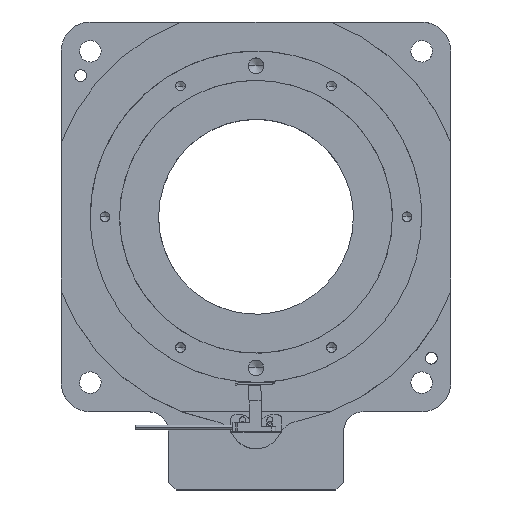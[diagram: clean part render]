
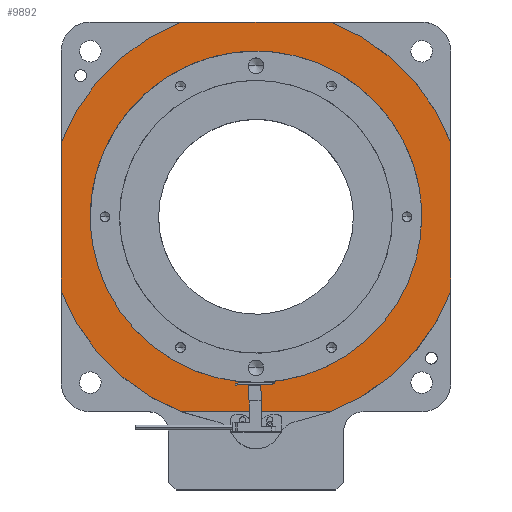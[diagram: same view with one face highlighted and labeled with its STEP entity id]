
A CAD part, top view. The second image highlights one B-rep face of the part: STEP entity #9892.
In plain terms, the highlighted planar face has unit normal (0, 0, 1).
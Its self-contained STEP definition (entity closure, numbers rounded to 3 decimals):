
#195 = CARTESIAN_POINT ( 'NONE',  ( -71.786, -8.598, 40.6 ) ) ;
#304 =( BOUNDED_CURVE ( )  B_SPLINE_CURVE ( 2, ( #7040, #15871, #25415 ),
 .UNSPECIFIED., .F., .T. ) 
 B_SPLINE_CURVE_WITH_KNOTS ( ( 3, 3 ),
 ( -90.239, 0. ),
 .UNSPECIFIED. ) 
 CURVE ( )  GEOMETRIC_REPRESENTATION_ITEM ( )  RATIONAL_B_SPLINE_CURVE ( ( 1., 0.912, 1. ) ) 
 REPRESENTATION_ITEM ( '' )  );
#588 = CARTESIAN_POINT ( 'NONE',  ( 96.138, -91.523, 40.6 ) ) ;
#884 = CARTESIAN_POINT ( 'NONE',  ( -86.786, 29.467, 40.6 ) ) ;
#1597 = CARTESIAN_POINT ( 'NONE',  ( -71.786, -93.598, 40.6 ) ) ;
#1882 = EDGE_CURVE ( 'NONE', #11064, #12660, #26430, .T. ) ;
#1992 = CARTESIAN_POINT ( 'NONE',  ( 96.138, 74.326, 40.6 ) ) ;
#2398 = ORIENTED_EDGE ( 'NONE', *, *, #24007, .T. ) ;
#3068 = CARTESIAN_POINT ( 'NONE',  ( 113.214, -46.664, 40.6 ) ) ;
#3305 = AXIS2_PLACEMENT_3D ( 'NONE', #18288, #24613, #13273 ) ;
#3606 = VERTEX_POINT ( 'NONE', #6590 ) ;
#4144 = CARTESIAN_POINT ( 'NONE',  ( -24.852, 91.402, 40.6 ) ) ;
#4430 = CARTESIAN_POINT ( 'NONE',  ( 51.28, 91.402, 40.6 ) ) ;
#5561 = EDGE_CURVE ( 'NONE', #12660, #15697, #28171, .T. ) ;
#6590 = CARTESIAN_POINT ( 'NONE',  ( -24.852, -108.598, 40.6 ) ) ;
#6942 = B_SPLINE_CURVE_WITH_KNOTS ( 'NONE', 1,
 ( #7073, #18552 ),
 .UNSPECIFIED., .F., .F.,
 ( 2, 2 ),
 ( 0., 76.131 ),
 .UNSPECIFIED. ) ;
#6950 = ORIENTED_EDGE ( 'NONE', *, *, #10341, .T. ) ;
#7040 = CARTESIAN_POINT ( 'NONE',  ( -24.852, 91.402, 40.6 ) ) ;
#7073 = CARTESIAN_POINT ( 'NONE',  ( -24.852, -108.598, 40.6 ) ) ;
#7283 =( BOUNDED_CURVE ( )  B_SPLINE_CURVE ( 2, ( #12900, #21924, #8401, #1597, #26451 ),
 .UNSPECIFIED., .F., .T. ) 
 B_SPLINE_CURVE_WITH_KNOTS ( ( 3, 2, 3 ),
 ( -267.035, -133.518, 0. ),
 .UNSPECIFIED. ) 
 CURVE ( )  GEOMETRIC_REPRESENTATION_ITEM ( )  RATIONAL_B_SPLINE_CURVE ( ( 1., 0.707, 1., 0.707, 1. ) ) 
 REPRESENTATION_ITEM ( '' )  );
#7737 = EDGE_LOOP ( 'NONE', ( #25149, #27097 ) ) ;
#8401 = CARTESIAN_POINT ( 'NONE',  ( 13.214, -93.598, 40.6 ) ) ;
#8758 = FACE_BOUND ( 'NONE', #7737, .T. ) ;
#8780 = CARTESIAN_POINT ( 'NONE',  ( 51.28, 91.402, 40.6 ) ) ;
#8902 = VERTEX_POINT ( 'NONE', #13117 ) ;
#9121 = CARTESIAN_POINT ( 'NONE',  ( -69.71, -91.523, 40.6 ) ) ;
#9523 = CARTESIAN_POINT ( 'NONE',  ( 51.28, 91.402, 40.6 ) ) ;
#9839 = B_SPLINE_CURVE_WITH_KNOTS ( 'NONE', 1,
 ( #884, #20767 ),
 .UNSPECIFIED., .F., .F.,
 ( 2, 2 ),
 ( -76.131, 0. ),
 .UNSPECIFIED. ) ;
#9892 = ADVANCED_FACE ( 'NONE', ( #8758, #17712 ), #20506, .T. ) ;
#10341 = EDGE_CURVE ( 'NONE', #3606, #22522, #6942, .T. ) ;
#10930 = CARTESIAN_POINT ( 'NONE',  ( 98.214, 76.402, 40.6 ) ) ;
#11064 = VERTEX_POINT ( 'NONE', #28860 ) ;
#11212 = CARTESIAN_POINT ( 'NONE',  ( 98.214, -8.598, 40.6 ) ) ;
#11699 = VERTEX_POINT ( 'NONE', #17953 ) ;
#11718 =( BOUNDED_CURVE ( )  B_SPLINE_CURVE ( 2, ( #11212, #10930, #18008, #22162, #195 ),
 .UNSPECIFIED., .F., .F. ) 
 B_SPLINE_CURVE_WITH_KNOTS ( ( 3, 2, 3 ),
 ( 0., 133.518, 267.035 ),
 .UNSPECIFIED. ) 
 CURVE ( )  GEOMETRIC_REPRESENTATION_ITEM ( )  RATIONAL_B_SPLINE_CURVE ( ( 1., 0.707, 1., 0.707, 1. ) ) 
 REPRESENTATION_ITEM ( '' )  );
#11850 = CARTESIAN_POINT ( 'NONE',  ( -86.786, -46.664, 40.6 ) ) ;
#11883 = ORIENTED_EDGE ( 'NONE', *, *, #18917, .T. ) ;
#12660 = VERTEX_POINT ( 'NONE', #28444 ) ;
#12900 = CARTESIAN_POINT ( 'NONE',  ( 98.214, -8.598, 40.6 ) ) ;
#13117 = CARTESIAN_POINT ( 'NONE',  ( -86.786, -46.664, 40.6 ) ) ;
#13273 = DIRECTION ( 'NONE',  ( 1., 0., 0. ) ) ;
#13963 = CARTESIAN_POINT ( 'NONE',  ( 51.28, -108.598, 40.6 ) ) ;
#14970 = EDGE_CURVE ( 'NONE', #18897, #19267, #11718, .T. ) ;
#15078 = CARTESIAN_POINT ( 'NONE',  ( -86.786, 29.467, 40.6 ) ) ;
#15133 = CARTESIAN_POINT ( 'NONE',  ( 98.214, -8.598, 40.6 ) ) ;
#15643 = CARTESIAN_POINT ( 'NONE',  ( 51.28, -108.598, 40.6 ) ) ;
#15697 = VERTEX_POINT ( 'NONE', #9523 ) ;
#15871 = CARTESIAN_POINT ( 'NONE',  ( -69.71, 74.326, 40.6 ) ) ;
#16666 = CARTESIAN_POINT ( 'NONE',  ( 113.214, -46.664, 40.6 ) ) ;
#17712 = FACE_OUTER_BOUND ( 'NONE', #25644, .T. ) ;
#17953 = CARTESIAN_POINT ( 'NONE',  ( -24.852, 91.402, 40.6 ) ) ;
#18008 = CARTESIAN_POINT ( 'NONE',  ( 13.214, 76.402, 40.6 ) ) ;
#18059 = ORIENTED_EDGE ( 'NONE', *, *, #1882, .T. ) ;
#18089 = EDGE_CURVE ( 'NONE', #18897, #19267, #7283, .T. ) ;
#18149 = ORIENTED_EDGE ( 'NONE', *, *, #5561, .T. ) ;
#18288 = CARTESIAN_POINT ( 'NONE',  ( -106.786, -128.598, 40.6 ) ) ;
#18552 = CARTESIAN_POINT ( 'NONE',  ( 51.28, -108.598, 40.6 ) ) ;
#18598 = CARTESIAN_POINT ( 'NONE',  ( 113.214, 29.467, 40.6 ) ) ;
#18673 = EDGE_CURVE ( 'NONE', #15697, #11699, #26325, .T. ) ;
#18897 = VERTEX_POINT ( 'NONE', #15133 ) ;
#18917 = EDGE_CURVE ( 'NONE', #8902, #3606, #22518, .T. ) ;
#18957 = EDGE_CURVE ( 'NONE', #11699, #28617, #304, .T. ) ;
#19267 = VERTEX_POINT ( 'NONE', #19523 ) ;
#19523 = CARTESIAN_POINT ( 'NONE',  ( -71.786, -8.598, 40.6 ) ) ;
#20506 = PLANE ( 'NONE',  #3305 ) ;
#20767 = CARTESIAN_POINT ( 'NONE',  ( -86.786, -46.664, 40.6 ) ) ;
#21924 = CARTESIAN_POINT ( 'NONE',  ( 98.214, -93.598, 40.6 ) ) ;
#22133 = ORIENTED_EDGE ( 'NONE', *, *, #25337, .T. ) ;
#22162 = CARTESIAN_POINT ( 'NONE',  ( -71.786, 76.402, 40.6 ) ) ;
#22169 = CARTESIAN_POINT ( 'NONE',  ( 113.214, 29.467, 40.6 ) ) ;
#22518 =( BOUNDED_CURVE ( )  B_SPLINE_CURVE ( 2, ( #11850, #9121, #22521 ),
 .UNSPECIFIED., .F., .T. ) 
 B_SPLINE_CURVE_WITH_KNOTS ( ( 3, 3 ),
 ( -90.239, 0. ),
 .UNSPECIFIED. ) 
 CURVE ( )  GEOMETRIC_REPRESENTATION_ITEM ( )  RATIONAL_B_SPLINE_CURVE ( ( 1., 0.912, 1. ) ) 
 REPRESENTATION_ITEM ( '' )  );
#22521 = CARTESIAN_POINT ( 'NONE',  ( -24.852, -108.598, 40.6 ) ) ;
#22522 = VERTEX_POINT ( 'NONE', #15643 ) ;
#22651 = ORIENTED_EDGE ( 'NONE', *, *, #18673, .T. ) ;
#24007 = EDGE_CURVE ( 'NONE', #22522, #11064, #27966, .T. ) ;
#24613 = DIRECTION ( 'NONE',  ( 0., 0., 1. ) ) ;
#25149 = ORIENTED_EDGE ( 'NONE', *, *, #18089, .T. ) ;
#25337 = EDGE_CURVE ( 'NONE', #28617, #8902, #9839, .T. ) ;
#25415 = CARTESIAN_POINT ( 'NONE',  ( -86.786, 29.467, 40.6 ) ) ;
#25644 = EDGE_LOOP ( 'NONE', ( #6950, #2398, #18059, #18149, #22651, #27562, #22133, #11883 ) ) ;
#26325 = B_SPLINE_CURVE_WITH_KNOTS ( 'NONE', 1,
 ( #4430, #4144 ),
 .UNSPECIFIED., .F., .F.,
 ( 2, 2 ),
 ( -76.131, 0. ),
 .UNSPECIFIED. ) ;
#26430 = B_SPLINE_CURVE_WITH_KNOTS ( 'NONE', 1,
 ( #16666, #18598 ),
 .UNSPECIFIED., .F., .F.,
 ( 2, 2 ),
 ( -76.131, 0. ),
 .UNSPECIFIED. ) ;
#26451 = CARTESIAN_POINT ( 'NONE',  ( -71.786, -8.598, 40.6 ) ) ;
#27097 = ORIENTED_EDGE ( 'NONE', *, *, #14970, .F. ) ;
#27562 = ORIENTED_EDGE ( 'NONE', *, *, #18957, .T. ) ;
#27966 =( BOUNDED_CURVE ( )  B_SPLINE_CURVE ( 2, ( #13963, #588, #3068 ),
 .UNSPECIFIED., .F., .T. ) 
 B_SPLINE_CURVE_WITH_KNOTS ( ( 3, 3 ),
 ( -90.239, 0. ),
 .UNSPECIFIED. ) 
 CURVE ( )  GEOMETRIC_REPRESENTATION_ITEM ( )  RATIONAL_B_SPLINE_CURVE ( ( 1., 0.912, 1. ) ) 
 REPRESENTATION_ITEM ( '' )  );
#28171 =( BOUNDED_CURVE ( )  B_SPLINE_CURVE ( 2, ( #22169, #1992, #8780 ),
 .UNSPECIFIED., .F., .T. ) 
 B_SPLINE_CURVE_WITH_KNOTS ( ( 3, 3 ),
 ( -90.239, 0. ),
 .UNSPECIFIED. ) 
 CURVE ( )  GEOMETRIC_REPRESENTATION_ITEM ( )  RATIONAL_B_SPLINE_CURVE ( ( 1., 0.912, 1. ) ) 
 REPRESENTATION_ITEM ( '' )  );
#28444 = CARTESIAN_POINT ( 'NONE',  ( 113.214, 29.467, 40.6 ) ) ;
#28617 = VERTEX_POINT ( 'NONE', #15078 ) ;
#28860 = CARTESIAN_POINT ( 'NONE',  ( 113.214, -46.664, 40.6 ) ) ;
